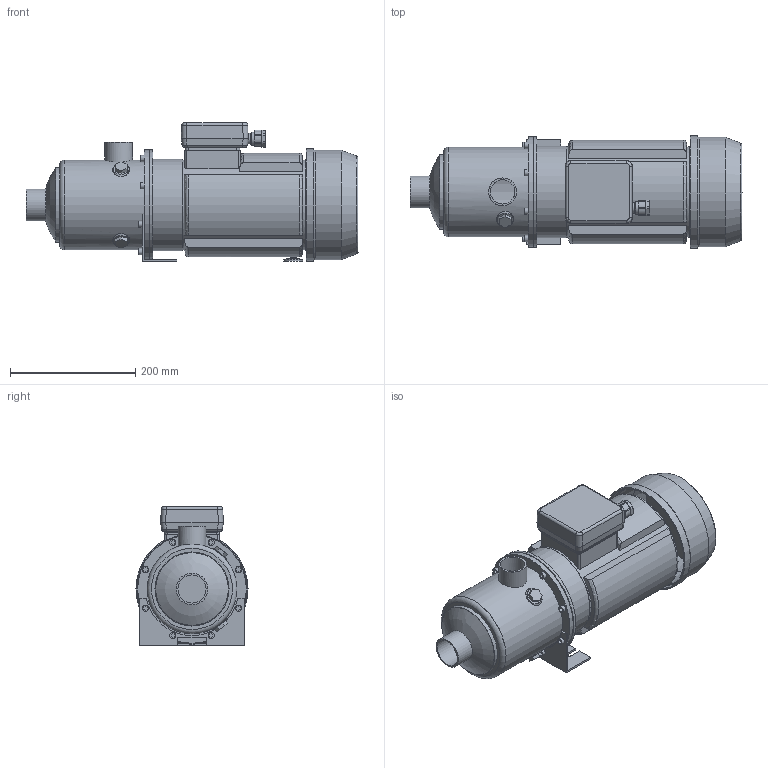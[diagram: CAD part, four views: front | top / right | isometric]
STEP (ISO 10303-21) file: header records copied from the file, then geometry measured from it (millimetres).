
FILE_DESCRIPTION(/* description */ ('Unknown'),/* implementation_level */ '2;1');
FILE_NAME(/* name */ 'MH 9 [4] T6 IE3',/* time_stamp */ '2026-07-10T15:16:18+02:00',/* author */ ('Unknown'),/* organization */ ('Unknown'),/* preprocessor_version */ 'ST-DEVELOPER v20',/* originating_system */ 'Solid Edge',/* authorisation */ 'Unknown');
FILE_SCHEMA (('AUTOMOTIVE_DESIGN {1 0 10303 214 3 1 1}'));
Length unit declared in the file: millimetre
Products named in the file (10): MH 9 [4] T6 IE3; Flangia motore Tonda M90; Corpo MH 9 [4]; Motore MEC 90 - T [3kW IE3]; carcassa MEC 90 [3kW IE3]; Copriventola MEC 90; Ghiera PG13,5 cod. SAV.GHI.20; Basetta MEC 80-90-100 T; Piedino MEC 90 int.90; Staffa 3-5-9 int.90
Assembly tree (9 placements, depth 3):
  MH 9 [4] T6 IE3
    Flangia motore Tonda M90
    Corpo MH 9 [4]
    Motore MEC 90 - T [3kW IE3]
      carcassa MEC 90 [3kW IE3]
      Copriventola MEC 90
      Ghiera PG13,5 cod. SAV.GHI.20
      Basetta MEC 80-90-100 T
    Piedino MEC 90 int.90
    Staffa 3-5-9 int.90
Bounding box: 530.6 x 179.1 x 221.5 mm (x, y, z)
Volume: 3135550.9 mm3; surface area: 690504.1 mm2
Topology: 8 solids, 8 shells, 321 faces, 765 edges, 506 vertices
Faces by surface type: plane 180, cylinder 100, cone 20, torus 11, bspline 8, sphere 2
Full cylindrical faces by diameter (mm): 7 x4, 10 x9, 13 x1, 17 x1, 19.73 x1, 20.4 x1, 21 x1, 30 x1, 38.952 x1, 44.5 x1, 44.845 x1, 50.8 x1, 116.1 x1, 118.5 x1, 135 x1, 140 x3, 141.1 x1, 143.5 x1, 145 x1, 146 x1, 169.5 x1, 173.5 x1, 174.1 x2, 174.5 x1, 176.5 x2, 179.1 x1
Entity records: 10582 total; most frequent: CARTESIAN_POINT 1969, DIRECTION 1507, ORIENTED_EDGE 1350, EDGE_CURVE 675, AXIS2_PLACEMENT_3D 561, VERTEX_POINT 477, EDGE_LOOP 438, FACE_BOUND 438
